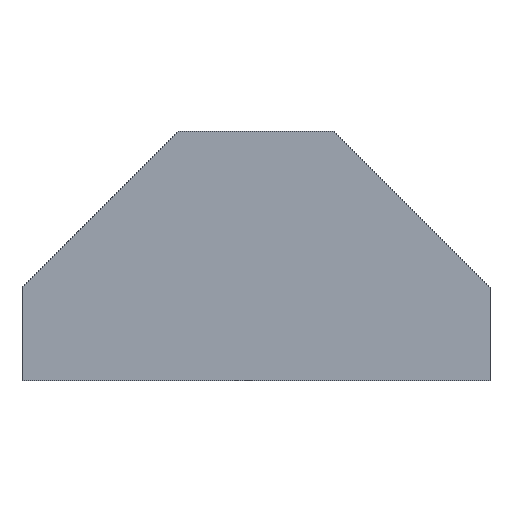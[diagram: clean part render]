
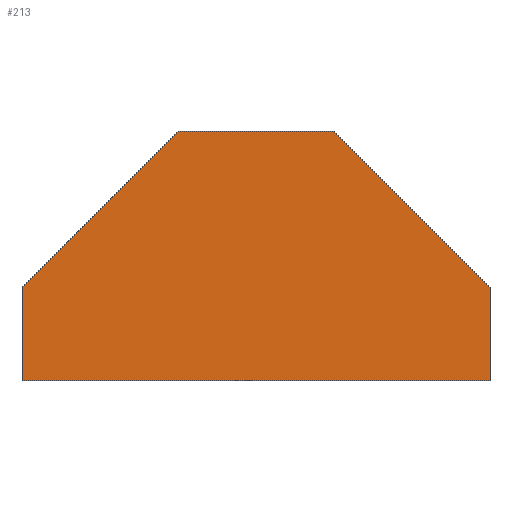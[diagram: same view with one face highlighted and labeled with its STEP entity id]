
A CAD part, front view. The second image highlights one B-rep face of the part: STEP entity #213.
In plain terms, the highlighted planar face has unit normal (0, -1, 0).
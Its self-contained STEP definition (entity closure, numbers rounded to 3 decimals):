
#13 = ORIENTED_EDGE ( 'NONE', *, *, #527, .F. ) ;
#20 = VECTOR ( 'NONE', #873, 1000. ) ;
#32 = EDGE_CURVE ( 'NONE', #381, #549, #460, .T. ) ;
#35 = EDGE_LOOP ( 'NONE', ( #13, #540, #750, #382, #847, #463 ) ) ;
#51 = DIRECTION ( 'NONE',  ( 0., 1., 0. ) ) ;
#54 = LINE ( 'NONE', #340, #150 ) ;
#132 = DIRECTION ( 'NONE',  ( -1., 0., 0. ) ) ;
#136 = VECTOR ( 'NONE', #896, 1000. ) ;
#150 = VECTOR ( 'NONE', #415, 1000. ) ;
#213 = ADVANCED_FACE ( 'NONE', ( #936 ), #375, .F. ) ;
#216 = EDGE_CURVE ( 'NONE', #272, #720, #332, .T. ) ;
#231 = VECTOR ( 'NONE', #436, 1000. ) ;
#249 = DIRECTION ( 'NONE',  ( 0.707, 0., -0.707 ) ) ;
#272 = VERTEX_POINT ( 'NONE', #355 ) ;
#281 = EDGE_CURVE ( 'NONE', #992, #306, #701, .T. ) ;
#306 = VERTEX_POINT ( 'NONE', #428 ) ;
#332 = LINE ( 'NONE', #891, #136 ) ;
#340 = CARTESIAN_POINT ( 'NONE',  ( -22.5, -0.5, -15.5 ) ) ;
#355 = CARTESIAN_POINT ( 'NONE',  ( -22.5, -0.5, -24.5 ) ) ;
#375 = PLANE ( 'NONE',  #882 ) ;
#381 = VERTEX_POINT ( 'NONE', #600 ) ;
#382 = ORIENTED_EDGE ( 'NONE', *, *, #216, .F. ) ;
#388 = VECTOR ( 'NONE', #504, 1000. ) ;
#412 = CARTESIAN_POINT ( 'NONE',  ( 22.5, -0.5, -24.5 ) ) ;
#415 = DIRECTION ( 'NONE',  ( 0.707, 0., 0.707 ) ) ;
#428 = CARTESIAN_POINT ( 'NONE',  ( 7.5, -0.5, -0.5 ) ) ;
#436 = DIRECTION ( 'NONE',  ( 1., 0., 0. ) ) ;
#460 = LINE ( 'NONE', #949, #388 ) ;
#463 = ORIENTED_EDGE ( 'NONE', *, *, #32, .F. ) ;
#478 = CARTESIAN_POINT ( 'NONE',  ( 7.5, -0.5, -0.5 ) ) ;
#484 = LINE ( 'NONE', #478, #994 ) ;
#499 = CARTESIAN_POINT ( 'NONE',  ( -7.5, -0.5, -0.5 ) ) ;
#504 = DIRECTION ( 'NONE',  ( 0., 0., -1. ) ) ;
#516 = LINE ( 'NONE', #412, #20 ) ;
#527 = EDGE_CURVE ( 'NONE', #306, #381, #484, .T. ) ;
#540 = ORIENTED_EDGE ( 'NONE', *, *, #281, .F. ) ;
#549 = VERTEX_POINT ( 'NONE', #766 ) ;
#600 = CARTESIAN_POINT ( 'NONE',  ( 22.5, -0.5, -15.5 ) ) ;
#701 = LINE ( 'NONE', #727, #231 ) ;
#720 = VERTEX_POINT ( 'NONE', #937 ) ;
#726 = CARTESIAN_POINT ( 'NONE',  ( 22.5, -0.5, -0.5 ) ) ;
#727 = CARTESIAN_POINT ( 'NONE',  ( 22.5, -0.5, -0.5 ) ) ;
#750 = ORIENTED_EDGE ( 'NONE', *, *, #890, .F. ) ;
#766 = CARTESIAN_POINT ( 'NONE',  ( 22.5, -0.5, -24.5 ) ) ;
#847 = ORIENTED_EDGE ( 'NONE', *, *, #934, .T. ) ;
#873 = DIRECTION ( 'NONE',  ( 1., 0., 0. ) ) ;
#882 = AXIS2_PLACEMENT_3D ( 'NONE', #726, #51, #132 ) ;
#890 = EDGE_CURVE ( 'NONE', #720, #992, #54, .T. ) ;
#891 = CARTESIAN_POINT ( 'NONE',  ( -22.5, -0.5, -0.5 ) ) ;
#896 = DIRECTION ( 'NONE',  ( 0., 0., 1. ) ) ;
#934 = EDGE_CURVE ( 'NONE', #272, #549, #516, .T. ) ;
#936 = FACE_OUTER_BOUND ( 'NONE', #35, .T. ) ;
#937 = CARTESIAN_POINT ( 'NONE',  ( -22.5, -0.5, -15.5 ) ) ;
#949 = CARTESIAN_POINT ( 'NONE',  ( 22.5, -0.5, -24.5 ) ) ;
#992 = VERTEX_POINT ( 'NONE', #499 ) ;
#994 = VECTOR ( 'NONE', #249, 1000. ) ;
